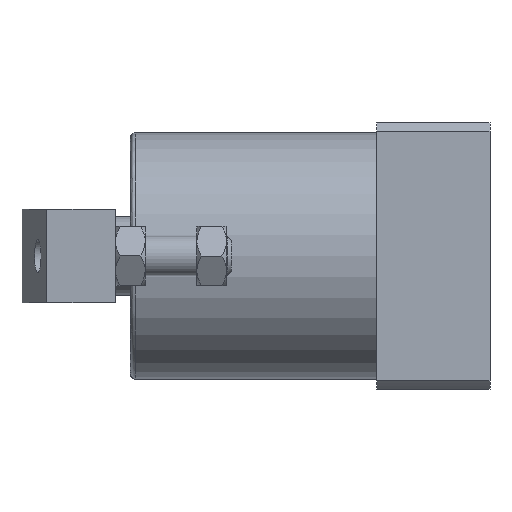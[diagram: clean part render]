
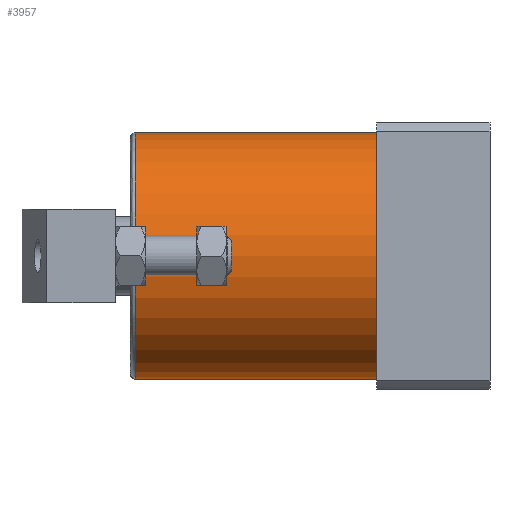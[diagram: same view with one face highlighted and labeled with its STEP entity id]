
A CAD part, left-side view. The second image highlights one B-rep face of the part: STEP entity #3957.
In plain terms, the highlighted cylindrical face has radius 25 mm (diameter 50 mm), a partial arc.
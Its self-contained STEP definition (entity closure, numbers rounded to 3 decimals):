
#98 = ORIENTED_EDGE ( 'NONE', *, *, #7567, .T. ) ;
#127 = VECTOR ( 'NONE', #4462, 1000. ) ;
#276 = ORIENTED_EDGE ( 'NONE', *, *, #2793, .T. ) ;
#309 = DIRECTION ( 'NONE',  ( 0., 0., 1. ) ) ;
#1374 = CIRCLE ( 'NONE', #8940, 25. ) ;
#1854 = CARTESIAN_POINT ( 'NONE',  ( 0., 0., 25. ) ) ;
#2101 = LINE ( 'NONE', #9657, #2886 ) ;
#2793 = EDGE_CURVE ( 'NONE', #10978, #6019, #6770, .T. ) ;
#2886 = VECTOR ( 'NONE', #9741, 1000. ) ;
#3109 = EDGE_LOOP ( 'NONE', ( #8556, #98, #276, #8056 ) ) ;
#3512 = CIRCLE ( 'NONE', #6987, 25. ) ;
#3789 = DIRECTION ( 'NONE',  ( 0., 1., 0. ) ) ;
#3957 = ADVANCED_FACE ( 'NONE', ( #7934 ), #6163, .T. ) ;
#4169 = CARTESIAN_POINT ( 'NONE',  ( 0., 72., -25. ) ) ;
#4462 = DIRECTION ( 'NONE',  ( 0., 1., 0. ) ) ;
#4804 = CARTESIAN_POINT ( 'NONE',  ( 0., 23., 25. ) ) ;
#5487 = CARTESIAN_POINT ( 'NONE',  ( 0., 23., 0. ) ) ;
#6019 = VERTEX_POINT ( 'NONE', #6725 ) ;
#6163 = CYLINDRICAL_SURFACE ( 'NONE', #9883, 25. ) ;
#6400 = DIRECTION ( 'NONE',  ( 0., 1., 0. ) ) ;
#6525 = EDGE_CURVE ( 'NONE', #11062, #9978, #2101, .T. ) ;
#6725 = CARTESIAN_POINT ( 'NONE',  ( 0., 72., 25. ) ) ;
#6770 = LINE ( 'NONE', #1854, #127 ) ;
#6987 = AXIS2_PLACEMENT_3D ( 'NONE', #5487, #3789, #309 ) ;
#7305 = DIRECTION ( 'NONE',  ( 0., -1., 0. ) ) ;
#7567 = EDGE_CURVE ( 'NONE', #11062, #10978, #3512, .T. ) ;
#7675 = CARTESIAN_POINT ( 'NONE',  ( 0., 23., -25. ) ) ;
#7934 = FACE_OUTER_BOUND ( 'NONE', #3109, .T. ) ;
#8056 = ORIENTED_EDGE ( 'NONE', *, *, #10435, .T. ) ;
#8556 = ORIENTED_EDGE ( 'NONE', *, *, #6525, .F. ) ;
#8940 = AXIS2_PLACEMENT_3D ( 'NONE', #10900, #7305, #10735 ) ;
#9113 = CARTESIAN_POINT ( 'NONE',  ( 0., 0., 0. ) ) ;
#9657 = CARTESIAN_POINT ( 'NONE',  ( 0., 0., -25. ) ) ;
#9741 = DIRECTION ( 'NONE',  ( 0., 1., 0. ) ) ;
#9883 = AXIS2_PLACEMENT_3D ( 'NONE', #9113, #6400, #10812 ) ;
#9978 = VERTEX_POINT ( 'NONE', #4169 ) ;
#10435 = EDGE_CURVE ( 'NONE', #6019, #9978, #1374, .T. ) ;
#10735 = DIRECTION ( 'NONE',  ( 0., 0., 1. ) ) ;
#10812 = DIRECTION ( 'NONE',  ( 0., 0., 1. ) ) ;
#10900 = CARTESIAN_POINT ( 'NONE',  ( 0., 72., 0. ) ) ;
#10978 = VERTEX_POINT ( 'NONE', #4804 ) ;
#11062 = VERTEX_POINT ( 'NONE', #7675 ) ;
